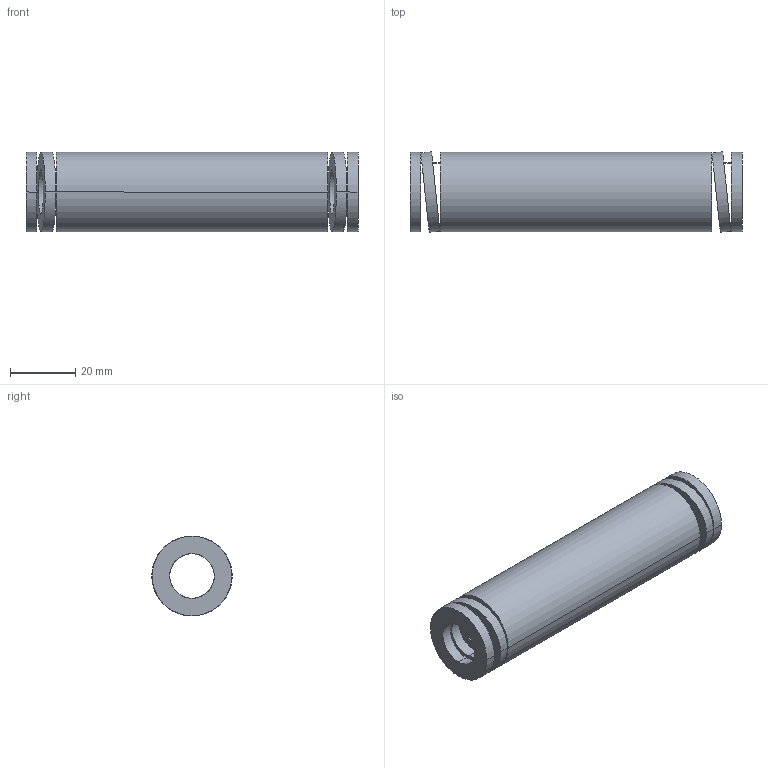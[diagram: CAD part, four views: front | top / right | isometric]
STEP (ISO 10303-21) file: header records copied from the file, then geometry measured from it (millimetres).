
FILE_DESCRIPTION(('CATIA V5 STEP Exchange'),'2;1');
FILE_NAME('C:\Users\Utente\Desktop\IO LAVORO\3D X SITO CF\X SITO\3D files 392B\392-B25-102.stp','2021-08-13T07:46:28+00:00',('none'),('none'),'CATIA Version 5 Release 20 GA (IN-10)','CATIA V5 STEP AP203','none');
FILE_SCHEMA(('CONFIG_CONTROL_DESIGN'));
Length unit declared in the file: millimetre
Products named in the file (1): 392-B25-102
Bounding box: 102 x 24.71 x 24.5 mm (x, y, z)
Volume: 31319.8 mm3; surface area: 14843.5 mm2
Topology: 1 solids, 1 shells, 38 faces, 92 edges, 64 vertices
Faces by surface type: cylinder 28, plane 10
Entity records: 1602 total; most frequent: CARTESIAN_POINT 719, ORIENTED_EDGE 184, DIRECTION 126, EDGE_CURVE 92, VERTEX_POINT 64, AXIS2_PLACEMENT_3D 61, EDGE_LOOP 56, B_SPLINE_CURVE_WITH_KNOTS 42
